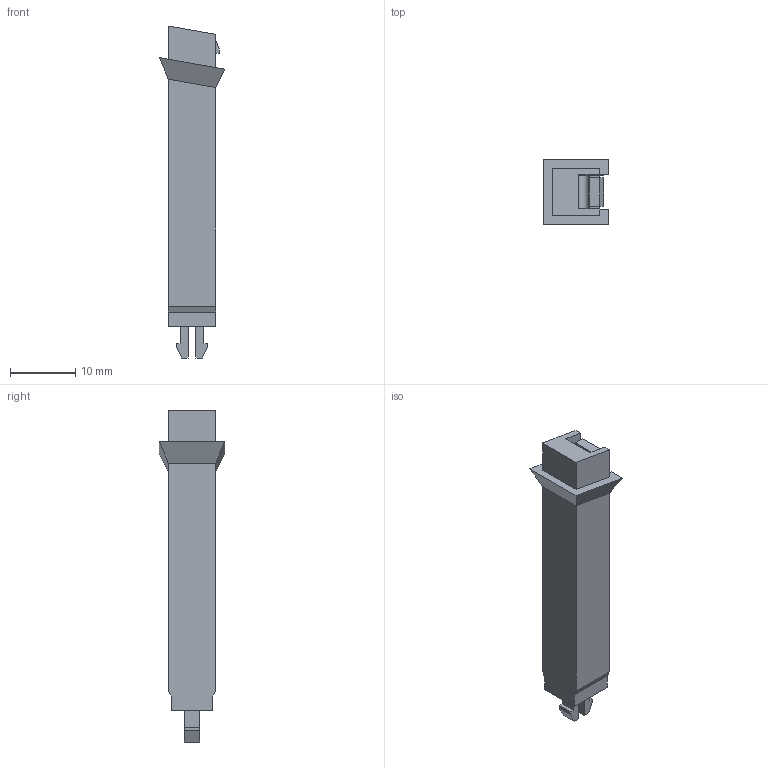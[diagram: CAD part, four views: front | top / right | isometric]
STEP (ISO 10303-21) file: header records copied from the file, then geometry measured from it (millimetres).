
FILE_DESCRIPTION(('Open CASCADE Model'),'2;1');
FILE_NAME('Open CASCADE Shape Model','2026-11-15T18:32:30',('Author'),( 'Open CASCADE'),'Open CASCADE STEP processor 7.9','Open CASCADE 7.9' ,'Unknown');
FILE_SCHEMA(('AUTOMOTIVE_DESIGN { 1 0 10303 214 1 1 1 1 }'));
Length unit declared in the file: millimetre
Products named in the file (1): Open CASCADE STEP translator 7.9 5
Bounding box: 10 x 10 x 50.7 mm (x, y, z)
Volume: 2197.8 mm3; surface area: 1996.5 mm2
Topology: 1 solids, 1 shells, 56 faces, 148 edges, 96 vertices
Faces by surface type: plane 49, bspline 5, cylinder 2
Entity records: 3606 total; most frequent: CARTESIAN_POINT 796, DIRECTION 452, LINE 332, VECTOR 332, ORIENTED_EDGE 296, PCURVE 296, DEFINITIONAL_REPRESENTATION 296, EDGE_CURVE 148
